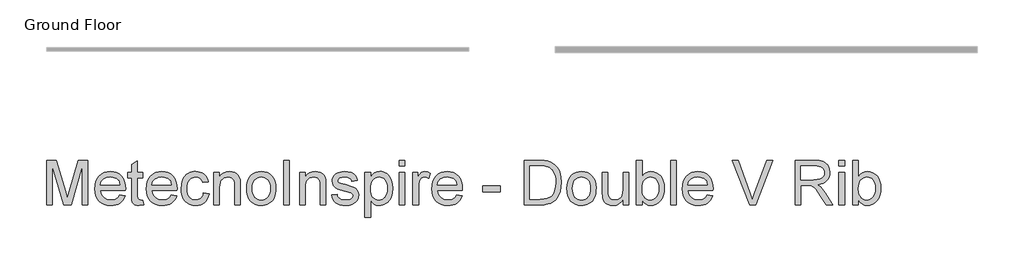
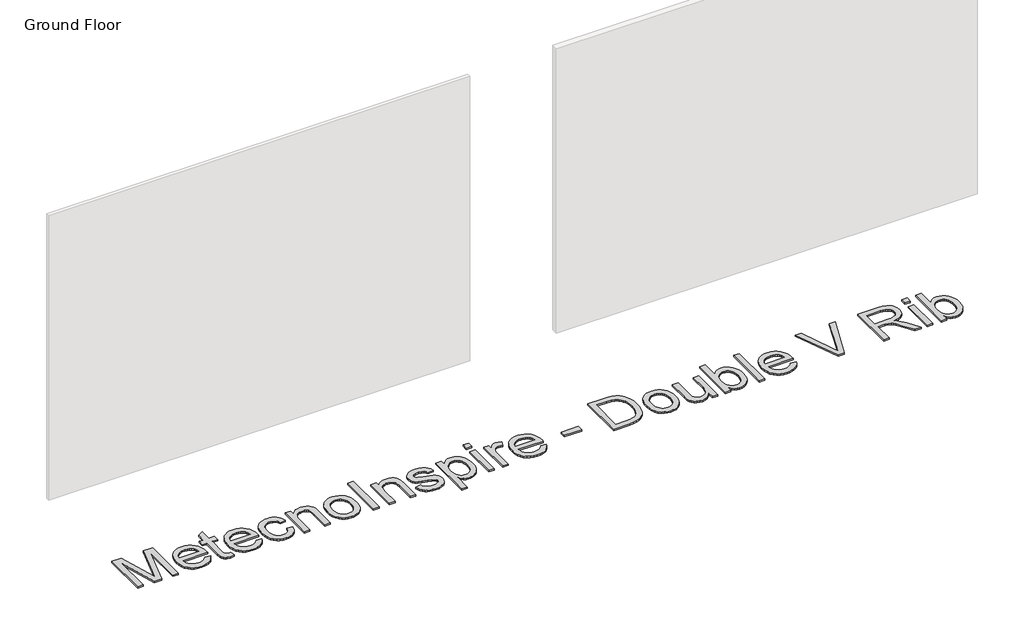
# One storey, part 3 of 5: 1 proxy.
"""IFC4 building model written with IfcOpenShell, lengths in millimetres."""

from ifc_helpers import new_model, si_unit, origin, origin_with_axes, place, context, project, spatial, polyline, outline, extrude, element, save

model = new_model("IFC4")

# Units and contexts
model_context = context("Model", 3, world=origin())
ifc_project = project(units=[si_unit("LENGTHUNIT", "METRE", prefix="MILLI")], contexts=[model_context])

# Site, building, storey
site = spatial("IfcSite", under=ifc_project)
building = spatial("IfcBuilding", under=site)
storey = spatial("IfcBuildingStorey", under=building, Name="Ground Floor", Elevation=0.0)

# Proxy
placement = place(None, origin())
element("IfcBuildingElementProxy", 1, Name="600mm Arial", ObjectType="600mm Arial", at=placement, inside=storey, context=model_context, shape_type="SweptSolid", body=[
    extrude(outline(polyline([(19138.8246294, -1164.7468486), (19138.8246294, -573.9776179), (19265.891937, -573.9776179), (19386.7573217, -990.3718486), (19411.1323217, -1077.3430025), (19437.5265524, -983.1603102), (19556.3727063, -573.9776179), (19683.440014, -573.9776179), (19683.440014, -1164.7468486), (19609.5938601, -1164.7468486), (19609.5938601, -647.8237717), (19461.1803986, -1164.7468486), (19361.0842447, -1164.7468486), (19212.6707832, -647.8237717), (19212.6707832, -1164.7468486), (19138.8246294, -1164.7468486)])), origin_with_axes(), (0.0, 0.0, 1.0), 20.0),
    extrude(outline(polyline([(20107.190014, -1035.5160794), (20179.5938601, -1044.7468486), (20168.4925981, -1073.7462477), (20153.5061197, -1099.3021371), (20134.634425, -1121.4145169), (20111.877514, -1140.0833871), (20085.4697616, -1154.9121131), (20055.6455428, -1165.5040602), (20022.4048577, -1171.8592285), (19985.7477063, -1173.9776179), (19939.9273938, -1170.3222693), (19899.1010717, -1159.3562236), (19863.2687399, -1141.0794809), (19832.4303986, -1115.492041), (19807.6317207, -1083.3060434), (19789.9183794, -1045.2336275), (19779.2903745, -1001.2747934), (19775.7477063, -951.429541), (19779.3264322, -899.8940842), (19790.0626101, -854.4704063), (19807.9562399, -815.1585073), (19833.0073217, -781.9583871), (19863.7645332, -755.5821852), (19898.7765524, -736.742041), (19938.0433794, -725.4379544), (19981.565014, -721.6699256), (20023.6849058, -725.42894), (20061.7753505, -736.7059833), (20095.8363481, -755.5010554), (20125.8678986, -781.8141563), (20150.3826221, -814.9421611), (20167.893139, -854.1819448), (20178.3994491, -899.5335073), (20181.9015524, -950.9968486), (20181.4688601, -970.9006948), (19849.5938601, -970.9006948), (19853.8712039, -1000.3688438), (19862.376312, -1026.1771371), (19875.1091846, -1048.3255746), (19892.0698217, -1066.8141563), (19912.3207231, -1081.3904785), (19934.924389, -1091.8021371), (19959.8808193, -1098.0491323), (19987.190014, -1100.131464), (20026.4928986, -1096.273291), (20059.5938601, -1084.6987717), (20086.4928986, -1064.6867525), (20107.190014, -1035.5160794)]), holes=[polyline([(19849.5938601, -897.054541), (20108.0553986, -897.054541), (20098.0674178, -858.0401179), (20089.4766726, -842.6975698), (20078.4880909, -830.131464), (20058.3498697, -814.9872333), (20035.4352063, -804.1699256), (20009.7441005, -797.679541), (19981.2765524, -795.5160794), (19955.3105068, -797.2423414), (19931.4989082, -802.4211275), (19909.8417568, -811.0524376), (19890.3390524, -823.1362717), (19873.9733673, -838.1137357), (19861.7272736, -855.4259352), (19853.6007712, -875.0728703), (19849.5938601, -897.054541)])]), origin_with_axes(), (0.0, 0.0, 1.0), 20.0),
    extrude(outline(polyline([(20412.6707832, -1103.1603102), (20421.9015524, -1166.9103102), (20366.6611678, -1173.9776179), (20331.2164563, -1170.912714), (20304.7861678, -1161.7180025), (20286.1082832, -1147.5473294), (20273.9207832, -1129.554541), (20267.2140524, -1098.6530986), (20264.9784755, -1045.756464), (20264.9784755, -804.7468486), (20209.5938601, -804.7468486), (20209.5938601, -730.9006948), (20264.9784755, -730.9006948), (20264.9784755, -625.4680025), (20338.8246294, -582.054541), (20338.8246294, -730.9006948), (20412.6707832, -730.9006948), (20412.6707832, -804.7468486), (20338.8246294, -804.7468486), (20338.8246294, -1043.5930025), (20342.7188601, -1081.6699256), (20355.3390524, -1095.1555025), (20365.9941005, -1098.8874736), (20380.5073217, -1100.131464), (20412.6707832, -1103.1603102)])), origin_with_axes(), (0.0, 0.0, 1.0), 20.0),
    extrude(outline(polyline([(20790.266937, -1035.5160794), (20862.6707832, -1044.7468486), (20851.5695212, -1073.7462477), (20836.5830428, -1099.3021371), (20817.7113481, -1121.4145169), (20794.954437, -1140.0833871), (20768.5466846, -1154.9121131), (20738.7224659, -1165.5040602), (20705.4817808, -1171.8592285), (20668.8246294, -1173.9776179), (20623.0043169, -1170.3222693), (20582.1779947, -1159.3562236), (20546.345663, -1141.0794809), (20515.5073217, -1115.492041), (20490.7086438, -1083.3060434), (20472.9953024, -1045.2336275), (20462.3672976, -1001.2747934), (20458.8246294, -951.429541), (20462.4033553, -899.8940842), (20473.1395332, -854.4704063), (20491.033163, -815.1585073), (20516.0842447, -781.9583871), (20546.8414563, -755.5821852), (20581.8534755, -736.742041), (20621.1203024, -725.4379544), (20664.641937, -721.6699256), (20706.7618289, -725.42894), (20744.8522736, -736.7059833), (20778.9132712, -755.5010554), (20808.9448217, -781.8141563), (20833.4595452, -814.9421611), (20850.970062, -854.1819448), (20861.4763721, -899.5335073), (20864.9784755, -950.9968486), (20864.5457832, -970.9006948), (20532.6707832, -970.9006948), (20536.948127, -1000.3688438), (20545.4532351, -1026.1771371), (20558.1861077, -1048.3255746), (20575.1467447, -1066.8141563), (20595.3976462, -1081.3904785), (20618.001312, -1091.8021371), (20642.9577423, -1098.0491323), (20670.266937, -1100.131464), (20709.5698217, -1096.273291), (20742.6707832, -1084.6987717), (20769.5698217, -1064.6867525), (20790.266937, -1035.5160794)]), holes=[polyline([(20532.6707832, -897.054541), (20791.1323217, -897.054541), (20781.1443409, -858.0401179), (20772.5535957, -842.6975698), (20761.565014, -830.131464), (20741.4267928, -814.9872333), (20718.5121294, -804.1699256), (20692.8210236, -797.679541), (20664.3534755, -795.5160794), (20638.3874298, -797.2423414), (20614.5758313, -802.4211275), (20592.9186798, -811.0524376), (20573.4159755, -823.1362717), (20557.0502904, -838.1137357), (20544.8041967, -855.4259352), (20536.6776943, -875.0728703), (20532.6707832, -897.054541)])]), origin_with_axes(), (0.0, 0.0, 1.0), 20.0),
    extrude(outline(polyline([(21215.7477063, -1007.8237717), (21289.5938601, -1017.054541), (21281.5620092, -1051.8997934), (21269.0049178, -1082.7336275), (21251.9225861, -1109.5560434), (21230.315014, -1132.367041), (21205.0926582, -1150.5716684), (21177.1659755, -1163.5749736), (21146.5349659, -1171.3769568), (21113.1996294, -1173.9776179), (21071.7828625, -1170.3493126), (21034.6479467, -1159.4643967), (21001.7948818, -1141.3228703), (20973.2236678, -1115.9247333), (20950.0971654, -1083.7477501), (20933.5782351, -1045.2696852), (20923.666877, -1000.4905385), (20920.3630909, -949.4103102), (20926.0061197, -883.695166), (20933.0599058, -854.123351), (20942.9352063, -826.742041), (20955.6996294, -802.1011155), (20971.4207832, -780.7504544), (20990.0986678, -762.6900578), (21011.7332832, -747.9199256), (21035.3465645, -736.4355506), (21059.9604467, -728.2324256), (21085.5749298, -723.3105506), (21112.190014, -721.6699256), (21144.9529346, -723.9235313), (21174.5878505, -730.6843486), (21201.0947616, -741.9523775), (21224.4736678, -757.7276179), (21244.3279346, -777.6494929), (21260.2609274, -801.3574256), (21272.2726462, -828.851416), (21280.3630909, -860.131464), (21206.516937, -869.3622333), (21193.1215044, -837.1446852), (21172.2621294, -814.0497333), (21145.0926582, -800.1494929), (21112.766937, -795.5160794), (21087.6752904, -797.7967285), (21065.0445813, -804.6386756), (21044.8748096, -816.0419208), (21027.1659755, -832.006464), (21012.7474058, -852.9018967), (21002.4484274, -879.0978102), (20996.2690404, -910.5942044), (20994.2092447, -947.3910794), (20996.2239683, -984.7423414), (21002.268139, -1016.6038198), (21012.3417568, -1042.9755145), (21026.4448217, -1063.8574256), (21043.8020933, -1079.7273174), (21063.6383313, -1091.0629544), (21085.9535356, -1097.8643366), (21110.7477063, -1100.131464), (21148.986889, -1094.4704063), (21165.5238481, -1087.3940842), (21180.3390524, -1077.4872333), (21193.0178385, -1064.6416804), (21203.1455428, -1048.7492525), (21210.7221654, -1029.8099496), (21215.7477063, -1007.8237717)])), origin_with_axes(), (0.0, 0.0, 1.0), 20.0),
    extrude(outline(polyline([(21354.2092447, -1164.7468486), (21354.2092447, -730.9006948), (21428.0553986, -730.9006948), (21428.0553986, -791.4776179), (21453.7104467, -760.9367525), (21484.5217447, -739.1218486), (21520.4892928, -726.0329063), (21561.6130909, -721.6699256), (21598.0133313, -725.1855506), (21631.3486678, -735.7324256), (21659.1491486, -751.9944448), (21678.9448217, -772.6555025), (21692.376312, -797.6615121), (21701.0842447, -826.9583871), (21704.9784755, -898.3526179), (21704.9784755, -1164.7468486), (21631.1323217, -1164.7468486), (21631.1323217, -908.304541), (21629.0049178, -870.1194448), (21622.6227063, -842.9680025), (21610.8498697, -823.5148775), (21592.5505909, -808.4247333), (21569.095062, -798.7432429), (21541.8534755, -795.5160794), (21519.4300981, -797.3279785), (21498.6022736, -802.7636756), (21479.370002, -811.8231708), (21461.7332832, -824.506464), (21446.9992087, -842.2558631), (21436.4748697, -866.5136756), (21430.1602664, -897.2799015), (21428.0553986, -934.554541), (21428.0553986, -1164.7468486), (21354.2092447, -1164.7468486)])), origin_with_axes(), (0.0, 0.0, 1.0), 20.0),
    extrude(outline(polyline([(21788.0553986, -947.8237717), (21792.048788, -891.6368727), (21804.0289563, -843.2204063), (21823.9959034, -802.5743727), (21851.9496294, -769.6987717), (21880.0926582, -748.6861515), (21911.1563601, -733.6771371), (21945.1407351, -724.6717285), (21982.0457832, -721.6699256), (22022.7864683, -725.3252741), (22059.6239082, -736.2913198), (22092.5581029, -754.5680626), (22121.5890524, -780.1555025), (22145.2834635, -812.1882549), (22162.2080428, -849.8009352), (22172.3627904, -892.9935434), (22175.7477063, -941.7660794), (22174.251312, -981.2943246), (22169.7621294, -1016.3694448), (22162.2801582, -1046.99144), (22151.8053986, -1073.1603102), (22138.4685596, -1095.763976), (22122.4003505, -1115.6903583), (22103.6007712, -1132.9394568), (22082.0698217, -1147.5112717), (22058.6458433, -1159.0902982), (22034.1671774, -1167.3610313), (22008.6338241, -1172.3234712), (21982.0457832, -1173.9776179), (21940.7101462, -1170.335791), (21903.5301582, -1159.4103102), (21870.5058193, -1141.2011756), (21841.6371294, -1115.7083871), (21818.1951221, -1083.3646371), (21801.4508313, -1044.6026179), (21791.4042568, -999.4223294), (21788.0553986, -947.8237717)]), holes=[polyline([(21861.9015524, -947.679541), (21864.0379707, -983.498351), (21870.4472255, -1014.5124736), (21881.1293169, -1040.7219087), (21896.0842447, -1062.1266563), (21914.2753505, -1078.7537597), (21934.6659755, -1090.6302621), (21957.2561197, -1097.7561635), (21982.0457832, -1100.131464), (22006.7092447, -1097.7426419), (22029.2092447, -1090.5761756), (22049.5457832, -1078.632065), (22067.7188601, -1061.9103102), (22082.673788, -1040.2937236), (22093.3558794, -1013.6651179), (22099.7651342, -982.0244929), (22101.9015524, -945.3718486), (22099.7516125, -910.6888559), (22093.3017928, -880.4860313), (22082.5520933, -854.7633751), (22067.502514, -833.5208871), (22049.2618289, -816.8937837), (22028.938812, -805.0172813), (22006.5334635, -797.8913799), (21982.0457832, -795.5160794), (21957.2561197, -797.8823655), (21934.6659755, -804.9812236), (21914.2753505, -816.8126539), (21896.0842447, -833.3766563), (21881.1293169, -854.718303), (21870.4472255, -880.882666), (21864.0379707, -911.8697453), (21861.9015524, -947.679541)])]), origin_with_axes(), (0.0, 0.0, 1.0), 20.0),
    extrude(outline(polyline([(22277.2861678, -1164.7468486), (22277.2861678, -573.9776179), (22351.1323217, -573.9776179), (22351.1323217, -1164.7468486), (22277.2861678, -1164.7468486)])), origin_with_axes(), (0.0, 0.0, 1.0), 20.0),
    extrude(outline(polyline([(22489.5938601, -1164.7468486), (22489.5938601, -730.9006948), (22563.440014, -730.9006948), (22563.440014, -791.4776179), (22589.095062, -760.9367525), (22619.9063601, -739.1218486), (22655.8739082, -726.0329063), (22696.9977063, -721.6699256), (22733.3979467, -725.1855506), (22766.7332832, -735.7324256), (22794.533764, -751.9944448), (22814.329437, -772.6555025), (22827.7609274, -797.6615121), (22836.4688601, -826.9583871), (22840.3630909, -898.3526179), (22840.3630909, -1164.7468486), (22766.516937, -1164.7468486), (22766.516937, -908.304541), (22764.3895332, -870.1194448), (22758.0073217, -842.9680025), (22746.2344851, -823.5148775), (22727.9352063, -808.4247333), (22704.4796774, -798.7432429), (22677.2380909, -795.5160794), (22654.8147135, -797.3279785), (22633.986889, -802.7636756), (22614.7546173, -811.8231708), (22597.1178986, -824.506464), (22582.3838241, -842.2558631), (22571.8594851, -866.5136756), (22565.5448818, -897.2799015), (22563.440014, -934.554541), (22563.440014, -1164.7468486), (22489.5938601, -1164.7468486)])), origin_with_axes(), (0.0, 0.0, 1.0), 20.0),
    extrude(outline(polyline([(22914.2092447, -1035.5160794), (22988.0553986, -1026.2853102), (22992.517538, -1043.1242525), (22999.7020332, -1057.8718486), (23009.6088842, -1070.5280986), (23022.2380909, -1081.0930025), (23037.6257111, -1089.4223294), (23055.8078024, -1095.3718486), (23100.5553986, -1100.131464), (23144.7621294, -1095.7684833), (23161.9436197, -1090.3147573), (23175.8438601, -1082.679541), (23194.2332832, -1063.7131948), (23200.3630909, -1041.7180025), (23198.8216245, -1031.7480506), (23194.1972255, -1022.8958871), (23175.6996294, -1008.5449256), (23148.0433794, -999.1699256), (23099.690014, -987.4872333), (23032.298187, -967.9980506), (22988.4880909, -951.3574256), (22960.345062, -933.2023775), (22939.954437, -909.1699256), (22927.5686197, -880.7925217), (22923.440014, -849.6026179), (22926.7573217, -820.990839), (22936.7092447, -794.5785794), (22952.3943409, -771.4115121), (22972.9111678, -752.5353102), (22993.3017928, -740.6543006), (23019.8582832, -730.6843486), (23050.5614082, -723.9235313), (23083.391937, -721.6699256), (23131.4568409, -725.2937236), (23173.2477063, -736.1651179), (23206.8534755, -753.2204063), (23230.3630909, -775.3958871), (23245.940014, -804.3321852), (23255.7477063, -841.6699256), (23181.9015524, -850.9006948), (23172.580639, -827.6615121), (23154.1371294, -810.1555025), (23126.3907351, -799.1759352), (23089.1611678, -795.5160794), (23046.7573217, -799.0136756), (23018.4880909, -809.506464), (23002.5866486, -824.6506948), (22997.2861678, -842.1026179), (22999.485687, -853.460791), (23006.0842447, -863.5930025), (23017.3703024, -872.6434833), (23033.6323217, -879.8910794), (23097.2380909, -895.6122333), (23205.627514, -930.3718486), (23234.2573217, -946.9944448), (23255.9640524, -969.7468486), (23269.6479467, -998.7011756), (23274.2092447, -1033.929541), (23268.8546774, -1070.3478102), (23252.7909755, -1104.6026179), (23226.6311197, -1134.007666), (23190.9880909, -1155.8766563), (23147.9352063, -1169.4523775), (23099.5457832, -1173.9776179), (23059.8011919, -1171.7961275), (23025.0866486, -1165.2516563), (22995.4021534, -1154.3442044), (22970.7477063, -1139.0737717), (22950.6094851, -1119.5124736), (22934.4736678, -1095.7324256), (22922.3402544, -1067.7336275), (22914.2092447, -1035.5160794)])), origin_with_axes(), (0.0, 0.0, 1.0), 20.0),
    extrude(outline(polyline([(23357.2861678, -1330.9006948), (23357.2861678, -730.9006948), (23431.1323217, -730.9006948), (23431.1323217, -803.304541), (23455.2188601, -767.5893967), (23482.190014, -742.0785794), (23513.6323217, -726.772089), (23551.1323217, -721.6699256), (23576.8865284, -723.4547813), (23601.0722255, -728.8093486), (23623.689413, -737.7336275), (23644.7380909, -750.2276179), (23663.7585236, -765.9668006), (23680.2909755, -784.6266563), (23694.3354467, -806.2071852), (23705.891937, -830.7083871), (23721.360687, -885.1194448), (23726.516937, -944.506464), (23720.6936197, -1007.6615121), (23713.4144731, -1036.7375337), (23703.2236678, -1064.1458871), (23690.2609274, -1089.1699256), (23674.6659755, -1111.0930025), (23656.438812, -1129.9151179), (23635.579437, -1145.6362717), (23613.1109875, -1158.0356107), (23590.0566005, -1166.8922813), (23566.416276, -1172.2062837), (23542.190014, -1173.9776179), (23508.2416967, -1169.2360313), (23477.9352063, -1155.0112717), (23451.9916967, -1133.538916), (23431.1323217, -1107.054541), (23431.1323217, -1330.9006948), (23357.2861678, -1330.9006948)]), holes=[polyline([(23431.1323217, -951.2853102), (23433.1290164, -986.8742525), (23439.1191005, -1017.4872333), (23449.1025741, -1043.1242525), (23463.079437, -1063.7853102), (23479.9048577, -1079.6867525), (23498.4340044, -1091.0449256), (23518.666877, -1097.8598294), (23540.6034755, -1100.131464), (23562.8555789, -1097.7786996), (23583.4580428, -1090.7204063), (23602.4108673, -1078.9565842), (23619.7140524, -1062.4872333), (23634.1326221, -1041.0779785), (23644.4316005, -1014.4944448), (23650.6109875, -982.7366323), (23652.6707832, -945.804541), (23650.6605669, -910.522089), (23644.6299178, -879.9631948), (23634.5788361, -854.1278583), (23620.5073217, -833.0160794), (23603.6413361, -816.6098294), (23585.2068409, -804.8910794), (23565.2038361, -797.8598294), (23543.6323217, -795.5160794), (23522.1284154, -798.0085674), (23501.8955428, -805.4860313), (23482.9337039, -817.9484712), (23465.2428986, -835.3958871), (23450.3195212, -857.5939039), (23439.6599659, -884.3081467), (23433.2642327, -915.5386155), (23431.1323217, -951.2853102)])]), origin_with_axes(), (0.0, 0.0, 1.0), 20.0),
    extrude(outline(polyline([(23809.5938601, -1164.7468486), (23809.5938601, -730.9006948), (23883.440014, -730.9006948), (23883.440014, -1164.7468486), (23809.5938601, -1164.7468486)])), origin_with_axes(), (0.0, 0.0, 1.0), 20.0),
    extrude(outline(polyline([(23809.5938601, -647.8237717), (23809.5938601, -573.9776179), (23883.440014, -573.9776179), (23883.440014, -647.8237717), (23809.5938601, -647.8237717)])), origin_with_axes(), (0.0, 0.0, 1.0), 20.0),
    extrude(outline(polyline([(23994.2092447, -1164.7468486), (23994.2092447, -730.9006948), (24058.8246294, -730.9006948), (24058.8246294, -795.0833871), (24082.6948217, -757.8718486), (24104.690014, -735.9487717), (24126.7573217, -725.2396371), (24150.8438601, -721.6699256), (24187.6227063, -727.367041), (24224.9784755, -744.4583871), (24200.315014, -810.6603102), (24174.3534755, -799.3021371), (24148.391937, -795.5160794), (24126.3426582, -799.1579063), (24106.6371294, -810.0833871), (24090.7176582, -827.4631948), (24080.0265524, -850.4680025), (24071.048187, -891.7180025), (24068.0553986, -936.7180025), (24068.0553986, -1164.7468486), (23994.2092447, -1164.7468486)])), origin_with_axes(), (0.0, 0.0, 1.0), 20.0),
    extrude(outline(polyline([(24574.8823217, -1035.5160794), (24647.2861678, -1044.7468486), (24636.1849058, -1073.7462477), (24621.1984274, -1099.3021371), (24602.3267327, -1121.4145169), (24579.5698217, -1140.0833871), (24553.1620693, -1154.9121131), (24523.3378505, -1165.5040602), (24490.0971654, -1171.8592285), (24453.440014, -1173.9776179), (24407.6197015, -1170.3222693), (24366.7933794, -1159.3562236), (24330.9610476, -1141.0794809), (24300.1227063, -1115.492041), (24275.3240284, -1083.3060434), (24257.610687, -1045.2336275), (24246.9826822, -1001.2747934), (24243.440014, -951.429541), (24247.0187399, -899.8940842), (24257.7549178, -854.4704063), (24275.6485476, -815.1585073), (24300.6996294, -781.9583871), (24331.4568409, -755.5821852), (24366.4688601, -736.742041), (24405.735687, -725.4379544), (24449.2573217, -721.6699256), (24491.3772135, -725.42894), (24529.4676582, -736.7059833), (24563.5286558, -755.5010554), (24593.5602063, -781.8141563), (24618.0749298, -814.9421611), (24635.5854467, -854.1819448), (24646.0917568, -899.5335073), (24649.5938601, -950.9968486), (24649.1611678, -970.9006948), (24317.2861678, -970.9006948), (24321.5635116, -1000.3688438), (24330.0686197, -1026.1771371), (24342.8014923, -1048.3255746), (24359.7621294, -1066.8141563), (24380.0130308, -1081.3904785), (24402.6166967, -1091.8021371), (24427.573127, -1098.0491323), (24454.8823217, -1100.131464), (24494.1852063, -1096.273291), (24527.2861678, -1084.6987717), (24554.1852063, -1064.6867525), (24574.8823217, -1035.5160794)]), holes=[polyline([(24317.2861678, -897.054541), (24575.7477063, -897.054541), (24565.7597255, -858.0401179), (24557.1689803, -842.6975698), (24546.1803986, -830.131464), (24526.0421774, -814.9872333), (24503.127514, -804.1699256), (24477.4364082, -797.679541), (24448.9688601, -795.5160794), (24423.0028145, -797.2423414), (24399.1912159, -802.4211275), (24377.5340645, -811.0524376), (24358.0313601, -823.1362717), (24341.665675, -838.1137357), (24329.4195813, -855.4259352), (24321.2930789, -875.0728703), (24317.2861678, -897.054541)])]), origin_with_axes(), (0.0, 0.0, 1.0), 20.0),
    extrude(outline(polyline([(24917.2861678, -989.3622333), (24917.2861678, -915.5160794), (25148.0553986, -915.5160794), (25148.0553986, -989.3622333), (24917.2861678, -989.3622333)])), origin_with_axes(), (0.0, 0.0, 1.0), 20.0),
    extrude(outline(polyline([(25471.1323217, -1164.7468486), (25471.1323217, -573.9776179), (25674.9303986, -573.9776179), (25735.8318409, -576.1050217), (25780.3630909, -582.4872333), (25827.454437, -598.8934833), (25867.190014, -624.7468486), (25889.0860476, -645.8766563), (25908.0433794, -669.7468486), (25924.0620092, -696.3574256), (25937.141937, -725.7083871), (25947.3011919, -757.5293006), (25954.5578024, -791.5497333), (25960.3630909, -866.1891563), (25956.4328024, -929.5966083), (25944.641937, -985.3958871), (25926.6852063, -1032.9018967), (25904.2573217, -1071.429541), (25878.440014, -1101.8442044), (25850.315014, -1125.0112717), (25818.0253505, -1142.1927621), (25779.7140524, -1154.6506948), (25735.3090044, -1162.2228102), (25684.7380909, -1164.7468486), (25471.1323217, -1164.7468486)]), holes=[polyline([(25544.9784755, -1090.9006948), (25675.6515524, -1090.9006948), (25729.7020332, -1088.2324256), (25770.6996294, -1080.2276179), (25801.6371294, -1067.3550217), (25825.5073217, -1050.0833871), (25851.1623697, -1018.1182429), (25870.4352063, -976.742041), (25882.4965044, -925.7744929), (25886.516937, -865.0353102), (25884.5472856, -822.162714), (25878.6383313, -784.554541), (25868.7900741, -752.210791), (25855.002514, -725.131464), (25838.3934395, -702.7035794), (25820.080639, -684.3141563), (25800.0641125, -669.9631948), (25778.3438601, -659.6506948), (25735.8678986, -650.7805025), (25673.6323217, -647.8237717), (25544.9784755, -647.8237717), (25544.9784755, -1090.9006948)])]), origin_with_axes(), (0.0, 0.0, 1.0), 20.0),
    extrude(outline(polyline([(26034.2092447, -947.8237717), (26038.2026342, -891.6368727), (26050.1828024, -843.2204063), (26070.1497495, -802.5743727), (26098.1034755, -769.6987717), (26126.2465044, -748.6861515), (26157.3102063, -733.6771371), (26191.2945813, -724.6717285), (26228.1996294, -721.6699256), (26268.9403145, -725.3252741), (26305.7777544, -736.2913198), (26338.7119491, -754.5680626), (26367.7428986, -780.1555025), (26391.4373096, -812.1882549), (26408.361889, -849.8009352), (26418.5166366, -892.9935434), (26421.9015524, -941.7660794), (26420.4051582, -981.2943246), (26415.9159755, -1016.3694448), (26408.4340044, -1046.99144), (26397.9592447, -1073.1603102), (26384.6224058, -1095.763976), (26368.5541967, -1115.6903583), (26349.7546173, -1132.9394568), (26328.2236678, -1147.5112717), (26304.7996895, -1159.0902982), (26280.3210236, -1167.3610313), (26254.7876702, -1172.3234712), (26228.1996294, -1173.9776179), (26186.8639923, -1170.335791), (26149.6840044, -1159.4103102), (26116.6596654, -1141.2011756), (26087.7909755, -1115.7083871), (26064.3489683, -1083.3646371), (26047.6046774, -1044.6026179), (26037.5581029, -999.4223294), (26034.2092447, -947.8237717)]), holes=[polyline([(26108.0553986, -947.679541), (26110.1918169, -983.498351), (26116.6010717, -1014.5124736), (26127.283163, -1040.7219087), (26142.2380909, -1062.1266563), (26160.4291967, -1078.7537597), (26180.8198217, -1090.6302621), (26203.4099659, -1097.7561635), (26228.1996294, -1100.131464), (26252.8630909, -1097.7426419), (26275.3630909, -1090.5761756), (26295.6996294, -1078.632065), (26313.8727063, -1061.9103102), (26328.8276342, -1040.2937236), (26339.5097255, -1013.6651179), (26345.9189803, -982.0244929), (26348.0553986, -945.3718486), (26345.9054587, -910.6888559), (26339.455639, -880.4860313), (26328.7059395, -854.7633751), (26313.6563601, -833.5208871), (26295.415675, -816.8937837), (26275.0926582, -805.0172813), (26252.6873096, -797.8913799), (26228.1996294, -795.5160794), (26203.4099659, -797.8823655), (26180.8198217, -804.9812236), (26160.4291967, -816.8126539), (26142.2380909, -833.3766563), (26127.283163, -854.718303), (26116.6010717, -880.882666), (26110.1918169, -911.8697453), (26108.0553986, -947.679541)])]), origin_with_axes(), (0.0, 0.0, 1.0), 20.0),
    extrude(outline(polyline([(26781.9015524, -1164.7468486), (26781.9015524, -1090.179541), (26755.1828024, -1126.8411996), (26724.065014, -1153.0280986), (26688.548187, -1168.7402381), (26648.6323217, -1173.9776179), (26612.6647736, -1170.2997333), (26579.1852063, -1159.2660794), (26551.096264, -1142.679541), (26531.3005909, -1122.3430025), (26517.9772736, -1097.6434833), (26509.3053986, -1067.9680025), (26504.9784755, -999.3141563), (26504.9784755, -730.9006948), (26578.8246294, -730.9006948), (26578.8246294, -964.554541), (26579.9424178, -1011.2853102), (26583.2957832, -1039.8430025), (26594.0590044, -1064.9571852), (26612.502514, -1084.0497333), (26637.4003505, -1096.1110313), (26667.5265524, -1100.131464), (26699.3835236, -1096.0208871), (26729.1852063, -1083.6891563), (26753.7585236, -1064.272089), (26769.9303986, -1038.9055025), (26778.908764, -1004.163916), (26781.9015524, -956.6218486), (26781.9015524, -730.9006948), (26855.7477063, -730.9006948), (26855.7477063, -1164.7468486), (26781.9015524, -1164.7468486)])), origin_with_axes(), (0.0, 0.0, 1.0), 20.0),
    extrude(outline(polyline([(27031.1323217, -1164.7468486), (26957.2861678, -1164.7468486), (26957.2861678, -573.9776179), (27031.1323217, -573.9776179), (27031.1323217, -793.0641563), (27055.4171774, -761.8291804), (27082.8390524, -739.5184833), (27113.3979467, -726.132065), (27147.0938601, -721.6699256), (27185.1347255, -725.6903583), (27221.0842447, -737.7516563), (27252.8871294, -757.0966083), (27278.4880909, -782.9680025), (27298.5541967, -815.1134352), (27313.752514, -853.2805025), (27323.3258313, -895.882666), (27326.516937, -941.3333871), (27323.213151, -993.7793006), (27313.3017928, -1039.9151179), (27296.7828625, -1079.740839), (27273.6563601, -1113.256464), (27245.8964443, -1139.8219688), (27215.4772736, -1158.7973294), (27182.3988481, -1170.1825458), (27146.6611678, -1173.9776179), (27111.8564803, -1169.0827861), (27081.0001101, -1154.398291), (27054.0920572, -1129.9241323), (27031.1323217, -1095.6603102), (27031.1323217, -1164.7468486)]), holes=[polyline([(27031.1323217, -944.7949256), (27036.1803986, -1006.381464), (27042.4904947, -1029.710791), (27051.3246294, -1048.0641563), (27069.2182592, -1070.8436035), (27090.0145332, -1087.1146371), (27113.7134515, -1096.8772573), (27140.315014, -1100.131464), (27162.4003505, -1097.7336275), (27182.9352063, -1090.5401179), (27201.9195813, -1078.5509352), (27219.3534755, -1061.7660794), (27233.9297976, -1040.2306227), (27244.3414563, -1013.9896371), (27250.5884515, -983.0431227), (27252.6707832, -947.3910794), (27250.6740885, -911.0629544), (27244.6840044, -879.818964), (27234.7005308, -853.6591083), (27220.7236678, -832.5833871), (27203.916276, -816.36644), (27185.4412159, -804.7829063), (27165.2984875, -797.8327861), (27143.4880909, -795.5160794), (27121.4027544, -797.913916), (27100.8678986, -805.1074256), (27081.8835236, -817.0966083), (27064.4496294, -833.881464), (27049.8733072, -855.2005746), (27039.4616486, -880.7925217), (27033.2146534, -910.6573054), (27031.1323217, -944.7949256)])]), origin_with_axes(), (0.0, 0.0, 1.0), 20.0),
    extrude(outline(polyline([(27409.5938601, -1164.7468486), (27409.5938601, -573.9776179), (27483.440014, -573.9776179), (27483.440014, -1164.7468486), (27409.5938601, -1164.7468486)])), origin_with_axes(), (0.0, 0.0, 1.0), 20.0),
    extrude(outline(polyline([(27897.9592447, -1035.5160794), (27970.3630909, -1044.7468486), (27959.2618289, -1073.7462477), (27944.2753505, -1099.3021371), (27925.4036558, -1121.4145169), (27902.6467447, -1140.0833871), (27876.2389923, -1154.9121131), (27846.4147736, -1165.5040602), (27813.1740885, -1171.8592285), (27776.516937, -1173.9776179), (27730.6966245, -1170.3222693), (27689.8703024, -1159.3562236), (27654.0379707, -1141.0794809), (27623.1996294, -1115.492041), (27598.4009515, -1083.3060434), (27580.6876101, -1045.2336275), (27570.0596053, -1001.2747934), (27566.516937, -951.429541), (27570.095663, -899.8940842), (27580.8318409, -854.4704063), (27598.7254707, -815.1585073), (27623.7765524, -781.9583871), (27654.533764, -755.5821852), (27689.5457832, -736.742041), (27728.8126101, -725.4379544), (27772.3342447, -721.6699256), (27814.4541366, -725.42894), (27852.5445813, -736.7059833), (27886.6055789, -755.5010554), (27916.6371294, -781.8141563), (27941.1518529, -814.9421611), (27958.6623697, -854.1819448), (27969.1686798, -899.5335073), (27972.6707832, -950.9968486), (27972.2380909, -970.9006948), (27640.3630909, -970.9006948), (27644.6404346, -1000.3688438), (27653.1455428, -1026.1771371), (27665.8784154, -1048.3255746), (27682.8390524, -1066.8141563), (27703.0899539, -1081.3904785), (27725.6936197, -1091.8021371), (27750.65005, -1098.0491323), (27777.9592447, -1100.131464), (27817.2621294, -1096.273291), (27850.3630909, -1084.6987717), (27877.2621294, -1064.6867525), (27897.9592447, -1035.5160794)]), holes=[polyline([(27640.3630909, -897.054541), (27898.8246294, -897.054541), (27888.8366486, -858.0401179), (27880.2459034, -842.6975698), (27869.2573217, -830.131464), (27849.1191005, -814.9872333), (27826.204437, -804.1699256), (27800.5133313, -797.679541), (27772.0457832, -795.5160794), (27746.0797375, -797.2423414), (27722.268139, -802.4211275), (27700.6109875, -811.0524376), (27681.1082832, -823.1362717), (27664.7425981, -838.1137357), (27652.4965044, -855.4259352), (27644.370002, -875.0728703), (27640.3630909, -897.054541)])]), origin_with_axes(), (0.0, 0.0, 1.0), 20.0),
    extrude(outline(polyline([(28461.0361678, -1164.7468486), (28225.940014, -573.9776179), (28304.9784755, -573.9776179), (28462.3342447, -999.6026179), (28494.2092447, -1095.5160794), (28525.6515524, -999.6026179), (28683.440014, -573.9776179), (28762.4784755, -573.9776179), (28537.3342447, -1164.7468486), (28461.0361678, -1164.7468486)])), origin_with_axes(), (0.0, 0.0, 1.0), 20.0),
    extrude(outline(polyline([(29061.9015524, -1164.7468486), (29061.9015524, -573.9776179), (29316.4688601, -573.9776179), (29384.8883313, -577.9619929), (29434.6659755, -589.9151179), (29453.8757111, -599.4163198), (29471.048187, -611.9824256), (29486.1834034, -627.6134352), (29499.2813601, -646.3093486), (29509.8507712, -667.0650578), (29517.4003505, -688.8754544), (29523.440014, -735.6603102), (29520.9385116, -766.0028583), (29513.4340044, -793.8574256), (29500.9264923, -819.2240121), (29483.4159755, -842.1026179), (29460.6770933, -861.7630746), (29432.4844851, -877.475214), (29398.838151, -889.2390361), (29359.7380909, -897.054541), (29384.0770332, -912.9559833), (29401.7092447, -928.6410794), (29461.565014, -1004.6506948), (29560.0746294, -1164.7468486), (29474.2573217, -1164.7468486), (29397.3823217, -1042.2949256), (29341.8534755, -961.2372333), (29321.2104467, -937.601416), (29302.8390524, -922.943964), (29267.7188601, -908.881464), (29224.8823217, -906.2853102), (29135.7477063, -906.2853102), (29135.7477063, -1164.7468486), (29061.9015524, -1164.7468486)]), holes=[polyline([(29135.7477063, -832.4391563), (29301.0361678, -832.4391563), (29348.5061197, -829.8249736), (29385.3390524, -821.9824256), (29413.0674178, -808.3886756), (29433.2236678, -788.5208871), (29445.501312, -764.4884352), (29449.5938601, -738.4006948), (29447.6422375, -719.5154785), (29441.7873697, -702.3790602), (29432.0292568, -686.99144), (29418.3678986, -673.3526179), (29400.4877904, -662.1837477), (29378.0734274, -654.2059833), (29351.1248096, -649.4193246), (29319.641937, -647.8237717), (29135.7477063, -647.8237717), (29135.7477063, -832.4391563)])]), origin_with_axes(), (0.0, 0.0, 1.0), 20.0),
    extrude(outline(polyline([(29643.440014, -1164.7468486), (29643.440014, -730.9006948), (29717.2861678, -730.9006948), (29717.2861678, -1164.7468486), (29643.440014, -1164.7468486)])), origin_with_axes(), (0.0, 0.0, 1.0), 20.0),
    extrude(outline(polyline([(29643.440014, -647.8237717), (29643.440014, -573.9776179), (29717.2861678, -573.9776179), (29717.2861678, -647.8237717), (29643.440014, -647.8237717)])), origin_with_axes(), (0.0, 0.0, 1.0), 20.0),
    extrude(outline(polyline([(29901.9015524, -1164.7468486), (29828.0553986, -1164.7468486), (29828.0553986, -573.9776179), (29901.9015524, -573.9776179), (29901.9015524, -793.0641563), (29926.1864082, -761.8291804), (29953.6082832, -739.5184833), (29984.1671774, -726.132065), (30017.8630909, -721.6699256), (30055.9039563, -725.6903583), (30091.8534755, -737.7516563), (30123.6563601, -757.0966083), (30149.2573217, -782.9680025), (30169.3234274, -815.1134352), (30184.5217447, -853.2805025), (30194.095062, -895.882666), (30197.2861678, -941.3333871), (30193.9823818, -993.7793006), (30184.0710236, -1039.9151179), (30167.5520933, -1079.740839), (30144.4255909, -1113.256464), (30116.665675, -1139.8219688), (30086.2465044, -1158.7973294), (30053.1680789, -1170.1825458), (30017.4303986, -1173.9776179), (29982.6257111, -1169.0827861), (29951.7693409, -1154.398291), (29924.861288, -1129.9241323), (29901.9015524, -1095.6603102), (29901.9015524, -1164.7468486)]), holes=[polyline([(29901.9015524, -944.7949256), (29906.9496294, -1006.381464), (29913.2597255, -1029.710791), (29922.0938601, -1048.0641563), (29939.9874899, -1070.8436035), (29960.783764, -1087.1146371), (29984.4826822, -1096.8772573), (30011.0842447, -1100.131464), (30033.1695813, -1097.7336275), (30053.704437, -1090.5401179), (30072.688812, -1078.5509352), (30090.1227063, -1061.7660794), (30104.6990284, -1040.2306227), (30115.110687, -1013.9896371), (30121.3576822, -983.0431227), (30123.440014, -947.3910794), (30121.4433193, -911.0629544), (30115.4532351, -879.818964), (30105.4697616, -853.6591083), (30091.4928986, -832.5833871), (30074.6855068, -816.36644), (30056.2104467, -804.7829063), (30036.0677183, -797.8327861), (30014.2573217, -795.5160794), (29992.1719851, -797.913916), (29971.6371294, -805.1074256), (29952.6527544, -817.0966083), (29935.2188601, -833.881464), (29920.642538, -855.2005746), (29910.2308794, -880.7925217), (29903.9838842, -910.6573054), (29901.9015524, -944.7949256)])]), origin_with_axes(), (0.0, 0.0, 1.0), 20.0),
])

save(model, "model.ifc")
